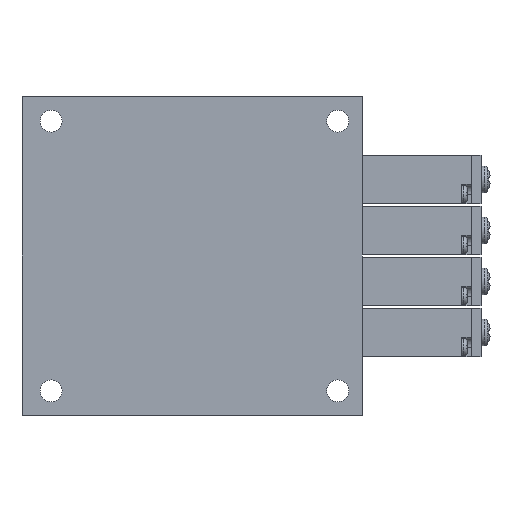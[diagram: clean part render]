
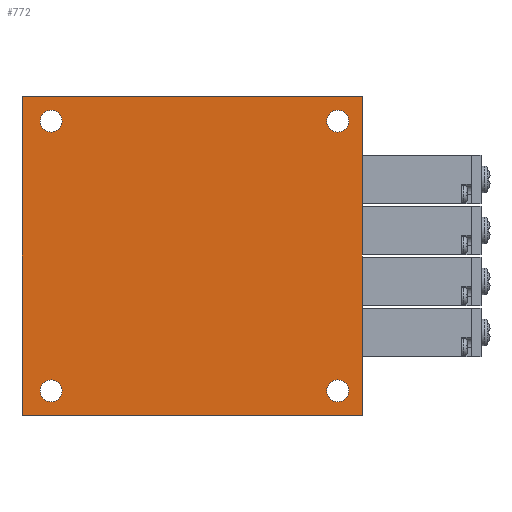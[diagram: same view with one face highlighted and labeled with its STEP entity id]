
A CAD part, front view. The second image highlights one B-rep face of the part: STEP entity #772.
In plain terms, the highlighted planar face has unit normal (0, -1, 0).
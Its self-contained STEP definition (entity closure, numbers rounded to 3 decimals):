
#772=ADVANCED_FACE('',(#1448,#1449,#1450,#1451,#1452),#1453,.F.);
#1448=FACE_OUTER_BOUND('',#2169,.T.);
#1449=FACE_BOUND('',#2170,.T.);
#1450=FACE_BOUND('',#2171,.T.);
#1451=FACE_BOUND('',#2172,.T.);
#1452=FACE_BOUND('',#2173,.T.);
#1453=PLANE('',#2174);
#2169=EDGE_LOOP('',(#4528,#4529,#4530,#4531));
#2170=EDGE_LOOP('',(#4532));
#2171=EDGE_LOOP('',(#4533));
#2172=EDGE_LOOP('',(#4534));
#2173=EDGE_LOOP('',(#4535));
#2174=AXIS2_PLACEMENT_3D('',#4536,#4537,#4538);
#4528=ORIENTED_EDGE('',*,*,#5363,.T.);
#4529=ORIENTED_EDGE('',*,*,#5364,.F.);
#4530=ORIENTED_EDGE('',*,*,#5365,.F.);
#4531=ORIENTED_EDGE('',*,*,#5366,.T.);
#4532=ORIENTED_EDGE('',*,*,#5367,.F.);
#4533=ORIENTED_EDGE('',*,*,#5368,.F.);
#4534=ORIENTED_EDGE('',*,*,#5369,.F.);
#4535=ORIENTED_EDGE('',*,*,#5370,.F.);
#4536=CARTESIAN_POINT('',(0.0,0.0,32.75));
#4537=DIRECTION('',(-0.0,1.0,0.0));
#4538=DIRECTION('',(1.0,0.0,0.0));
#5363=EDGE_CURVE('',#6600,#6601,#6602,.T.);
#5364=EDGE_CURVE('',#6603,#6601,#6604,.T.);
#5365=EDGE_CURVE('',#6605,#6603,#6606,.T.);
#5366=EDGE_CURVE('',#6605,#6600,#6607,.T.);
#5367=EDGE_CURVE('',#6608,#6608,#6609,.T.);
#5368=EDGE_CURVE('',#6610,#6610,#6611,.T.);
#5369=EDGE_CURVE('',#6612,#6612,#6613,.T.);
#5370=EDGE_CURVE('',#6614,#6614,#6615,.T.);
#6600=VERTEX_POINT('',#8700);
#6601=VERTEX_POINT('',#8701);
#6602=LINE('',#8702,#8703);
#6603=VERTEX_POINT('',#8704);
#6604=LINE('',#8705,#8706);
#6605=VERTEX_POINT('',#8707);
#6606=LINE('',#8708,#8709);
#6607=LINE('',#8710,#8711);
#6608=VERTEX_POINT('',#8712);
#6609=CIRCLE('',#8713,2.25);
#6610=VERTEX_POINT('',#8714);
#6611=CIRCLE('',#8715,2.25);
#6612=VERTEX_POINT('',#8716);
#6613=CIRCLE('',#8717,2.25);
#6614=VERTEX_POINT('',#8718);
#6615=CIRCLE('',#8719,2.25);
#8700=CARTESIAN_POINT('',(0.0,0.0,-32.75));
#8701=CARTESIAN_POINT('',(70.0,0.0,-32.75));
#8702=CARTESIAN_POINT('',(0.0,0.0,-32.75));
#8703=VECTOR('',#9767,1.0);
#8704=CARTESIAN_POINT('',(70.0,0.0,32.75));
#8705=CARTESIAN_POINT('',(70.0,0.0,32.75));
#8706=VECTOR('',#9768,1.0);
#8707=CARTESIAN_POINT('',(0.0,0.0,32.75));
#8708=CARTESIAN_POINT('',(0.0,0.0,32.75));
#8709=VECTOR('',#9769,1.0);
#8710=CARTESIAN_POINT('',(0.0,0.0,32.75));
#8711=VECTOR('',#9770,1.0);
#8712=CARTESIAN_POINT('',(6.0,0.0,30.0));
#8713=AXIS2_PLACEMENT_3D('',#9771,#9772,#9773);
#8714=CARTESIAN_POINT('',(65.0,0.0,-25.5));
#8715=AXIS2_PLACEMENT_3D('',#9774,#9775,#9776);
#8716=CARTESIAN_POINT('',(6.0,0.0,-25.5));
#8717=AXIS2_PLACEMENT_3D('',#9777,#9778,#9779);
#8718=CARTESIAN_POINT('',(65.0,0.0,30.0));
#8719=AXIS2_PLACEMENT_3D('',#9780,#9781,#9782);
#9767=DIRECTION('',(1.0,0.0,0.0));
#9768=DIRECTION('',(0.0,0.0,-1.0));
#9769=DIRECTION('',(1.0,0.0,0.0));
#9770=DIRECTION('',(0.0,0.0,-1.0));
#9771=CARTESIAN_POINT('',(6.0,0.0,27.75));
#9772=DIRECTION('',(0.0,-1.0,0.0));
#9773=DIRECTION('',(0.0,0.0,1.0));
#9774=CARTESIAN_POINT('',(65.0,0.0,-27.75));
#9775=DIRECTION('',(0.0,-1.0,0.0));
#9776=DIRECTION('',(0.0,0.0,1.0));
#9777=CARTESIAN_POINT('',(6.0,0.0,-27.75));
#9778=DIRECTION('',(0.0,-1.0,0.0));
#9779=DIRECTION('',(0.0,0.0,1.0));
#9780=CARTESIAN_POINT('',(65.0,0.0,27.75));
#9781=DIRECTION('',(0.0,-1.0,0.0));
#9782=DIRECTION('',(0.0,0.0,1.0));
